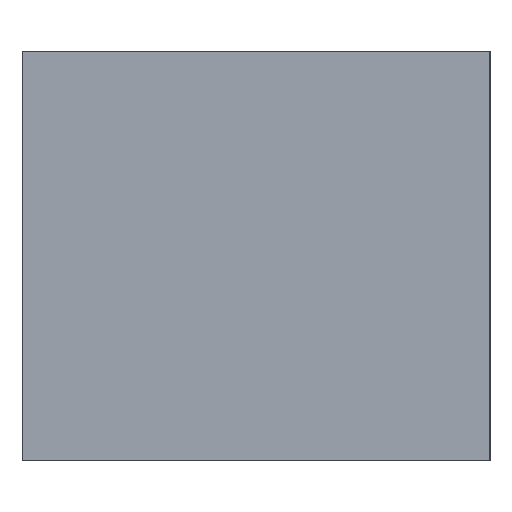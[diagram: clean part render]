
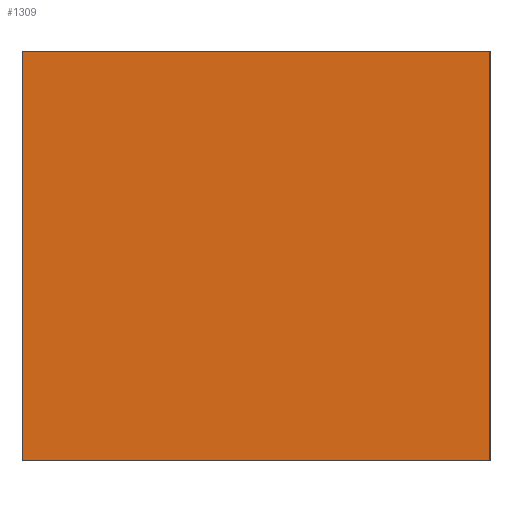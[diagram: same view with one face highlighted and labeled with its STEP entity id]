
A CAD part, left-side view. The second image highlights one B-rep face of the part: STEP entity #1309.
In plain terms, the highlighted planar face has unit normal (-1, 0, 0).
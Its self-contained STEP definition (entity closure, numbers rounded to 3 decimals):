
#230 = ORIENTED_EDGE ( 'NONE', *, *, #879, .T. ) ;
#408 = EDGE_CURVE ( 'NONE', #2637, #1969, #3015, .T. ) ;
#635 = CARTESIAN_POINT ( 'NONE',  ( -0.8, 0.4, 0.7 ) ) ;
#774 = LINE ( 'NONE', #4517, #903 ) ;
#807 = CARTESIAN_POINT ( 'NONE',  ( -0.8, 0.4, 0.7 ) ) ;
#879 = EDGE_CURVE ( 'NONE', #944, #1969, #1907, .T. ) ;
#903 = VECTOR ( 'NONE', #1218, 1000. ) ;
#944 = VERTEX_POINT ( 'NONE', #3340 ) ;
#953 = VERTEX_POINT ( 'NONE', #807 ) ;
#1034 = EDGE_CURVE ( 'NONE', #953, #944, #2419, .T. ) ;
#1158 = EDGE_LOOP ( 'NONE', ( #230, #3029, #2042, #4624 ) ) ;
#1218 = DIRECTION ( 'NONE',  ( 0., -1., 0. ) ) ;
#1309 = ADVANCED_FACE ( 'NONE', ( #2589 ), #2114, .F. ) ;
#1521 = VECTOR ( 'NONE', #2974, 1000. ) ;
#1701 = DIRECTION ( 'NONE',  ( 0., 0., -1. ) ) ;
#1724 = CARTESIAN_POINT ( 'NONE',  ( -0.8, 0.4, 0.7 ) ) ;
#1864 = CARTESIAN_POINT ( 'NONE',  ( -0.8, 0.4, 0. ) ) ;
#1907 = LINE ( 'NONE', #1864, #1521 ) ;
#1969 = VERTEX_POINT ( 'NONE', #2565 ) ;
#2042 = ORIENTED_EDGE ( 'NONE', *, *, #3375, .F. ) ;
#2114 = PLANE ( 'NONE',  #3919 ) ;
#2419 = LINE ( 'NONE', #1724, #2765 ) ;
#2565 = CARTESIAN_POINT ( 'NONE',  ( -0.8, -0.4, 0. ) ) ;
#2589 = FACE_OUTER_BOUND ( 'NONE', #1158, .T. ) ;
#2637 = VERTEX_POINT ( 'NONE', #4381 ) ;
#2765 = VECTOR ( 'NONE', #1701, 1000. ) ;
#2974 = DIRECTION ( 'NONE',  ( 0., -1., 0. ) ) ;
#3015 = LINE ( 'NONE', #4711, #4524 ) ;
#3029 = ORIENTED_EDGE ( 'NONE', *, *, #408, .F. ) ;
#3340 = CARTESIAN_POINT ( 'NONE',  ( -0.8, 0.4, 0. ) ) ;
#3375 = EDGE_CURVE ( 'NONE', #953, #2637, #774, .T. ) ;
#3589 = DIRECTION ( 'NONE',  ( 1., 0., 0. ) ) ;
#3919 = AXIS2_PLACEMENT_3D ( 'NONE', #635, #3589, #4369 ) ;
#3962 = DIRECTION ( 'NONE',  ( 0., 0., -1. ) ) ;
#4369 = DIRECTION ( 'NONE',  ( 0., 1., 0. ) ) ;
#4381 = CARTESIAN_POINT ( 'NONE',  ( -0.8, -0.4, 0.7 ) ) ;
#4517 = CARTESIAN_POINT ( 'NONE',  ( -0.8, 0.4, 0.7 ) ) ;
#4524 = VECTOR ( 'NONE', #3962, 1000. ) ;
#4624 = ORIENTED_EDGE ( 'NONE', *, *, #1034, .T. ) ;
#4711 = CARTESIAN_POINT ( 'NONE',  ( -0.8, -0.4, 0.7 ) ) ;
